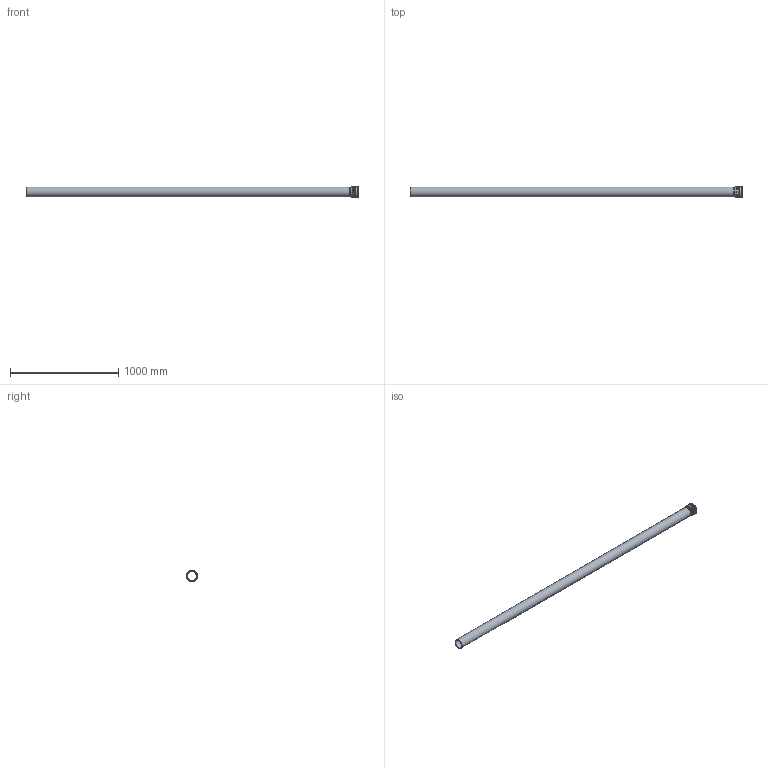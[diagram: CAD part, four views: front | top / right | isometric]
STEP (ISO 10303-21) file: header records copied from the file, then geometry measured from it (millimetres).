
FILE_DESCRIPTION(/* description */ (''),/* implementation_level */ '2;1');
FILE_NAME(/* name */ 'H:\Geberit-Teile\Export\PP_Rohr\stp\393407.stp',/* time_stamp */ '2017-02-13T16:07:51+01:00',/* author */ ('seihe2'),/* organization */ (''),/* preprocessor_version */ 'ST-DEVELOPER v15.2',/* originating_system */ 'Autodesk Inventor 2014',/* authorisation */ '');
FILE_SCHEMA (('AUTOMOTIVE_DESIGN { 1 0 10303 214 3 1 1 }'));
Length unit declared in the file: millimetre
Products named in the file (1): 393407
Bounding box: 3061 x 107 x 107 mm (x, y, z)
Volume: 3575300.8 mm3; surface area: 1674043.7 mm2
Topology: 2 solids, 2 shells, 38 faces, 81 edges, 56 vertices
Faces by surface type: torus 17, cylinder 10, plane 8, cone 2, bspline 1
Full cylindrical faces by diameter (mm): 81.6 x2, 90.2 x2, 91 x1, 93 x1, 98.8 x1, 100 x1, 100.8 x1, 107 x1
Entity records: 2149 total; most frequent: CARTESIAN_POINT 1370, DIRECTION 130, ORIENTED_EDGE 124, EDGE_LOOP 69, AXIS2_PLACEMENT_3D 65, EDGE_CURVE 62, VERTEX_POINT 55, STYLED_ITEM 40
